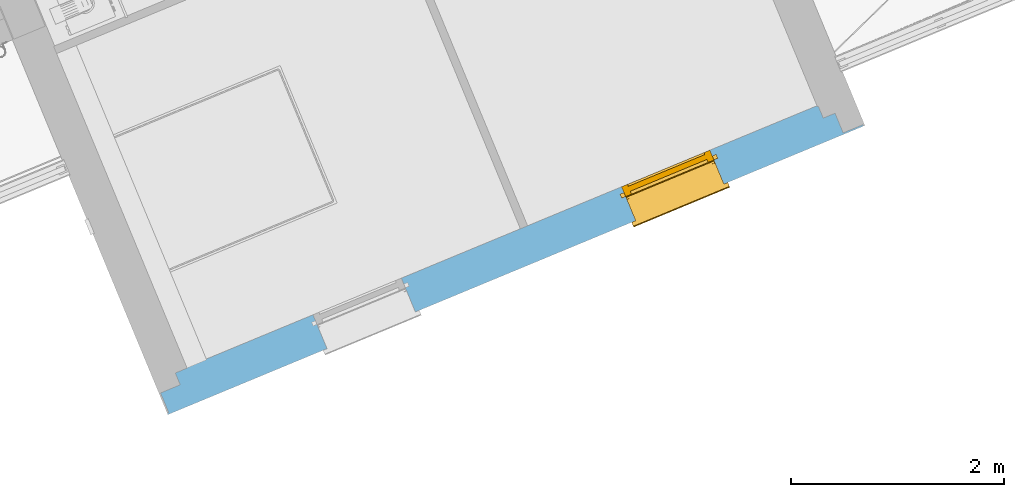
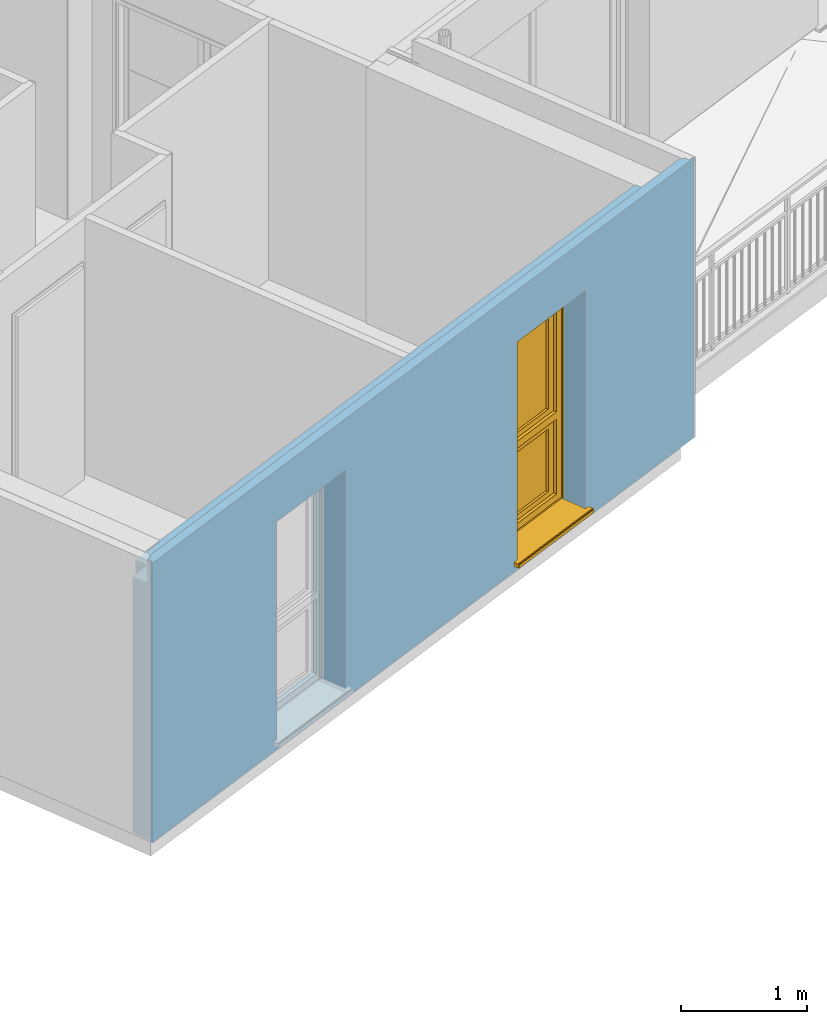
# One storey, part 16 of 90: 1 window, 2 openings, plus 1 element that does not belong to this part.
"""IFC2X3 building model written with IfcOpenShell, lengths in metres."""

from ifc_helpers import new_model, entity, si_unit, converted_unit, derived_unit, money_unit, direction, frame, origin_with_axes, place, context, subcontext, project, spatial, open_shell, faceted_brep, surface_model, source, transform, mapped, material, material_list, type_object, element, fill, save


model = new_model("IFC2X3")

# Units and contexts
model_context = context("Model", 3, precision=1e-05, world=origin_with_axes(), true_north=direction((0.0, 1.0)))
body_context = subcontext(model_context, "Body", "Model", "MODEL_VIEW")
ifc_project = project(units=[si_unit("LENGTHUNIT", "METRE"), si_unit("AREAUNIT", "SQUARE_METRE"), si_unit("VOLUMEUNIT", "CUBIC_METRE"), converted_unit("PLANEANGLEUNIT", "DEGREE", entity("IfcPlaneAngleMeasure", 0.0174532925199), si_unit("PLANEANGLEUNIT", "RADIAN"), dimensions=[0, 0, 0, 0, 0, 0, 0]), si_unit("SOLIDANGLEUNIT", "STERADIAN"), money_unit("EUR"), converted_unit("TIMEUNIT", "Year", entity("IfcTimeMeasure", 31556926.0), si_unit("TIMEUNIT", "SECOND"), dimensions=[0, 0, 1, 0, 0, 0, 0]), si_unit("MASSUNIT", "GRAM", prefix="KILO"), si_unit("THERMODYNAMICTEMPERATUREUNIT", "DEGREE_CELSIUS"), si_unit("LUMINOUSINTENSITYUNIT", "LUMEN"), si_unit("ENERGYUNIT", "JOULE", prefix="MEGA"), derived_unit("THERMALCONDUCTANCEUNIT", [(si_unit("POWERUNIT", "WATT"), 1), (si_unit("LENGTHUNIT", "METRE"), -1), (si_unit("THERMODYNAMICTEMPERATUREUNIT", "KELVIN"), -1)]), derived_unit("SPECIFICHEATCAPACITYUNIT", [(si_unit("ENERGYUNIT", "JOULE"), 1), (si_unit("MASSUNIT", "GRAM", prefix="KILO"), -1), (si_unit("THERMODYNAMICTEMPERATUREUNIT", "KELVIN"), -1)]), derived_unit("MASSDENSITYUNIT", [(si_unit("MASSUNIT", "GRAM", prefix="KILO"), 1), (si_unit("VOLUMEUNIT", "CUBIC_METRE"), -1)])], contexts=[model_context])

# Site, building, storey
site_placement = place(None, origin_with_axes())
site = spatial("IfcSite", under=ifc_project, at=site_placement, Name="Site", CompositionType="ELEMENT")
building_placement = place(site_placement, origin_with_axes())
building = spatial("IfcBuilding", under=site, at=building_placement, Name="Bâtiment", CompositionType="ELEMENT")
storey_placement = place(building_placement, frame((0.0, 0.0, 2.72), z_axis=(0.0, 0.0, 1.0), x_axis=(1.0, 0.0, 0.0)))
storey = spatial("IfcBuildingStorey", under=building, at=storey_placement, Name="R+1", CompositionType="ELEMENT", Elevation=2.72)

# Wall, openings, window
ifc_material_1 = material(Name="Finition int - Plaque de plâtre")
ifc_material_2 = material(Name="Isolation - Polystyrène extrudé")
ifc_material_3 = material(Name="Bloc ELITHERM")
ifc_material_4 = material(Name="Isolation - Polystyrène expansé")
ifc_material_5 = material(Name="Mortier")
ifc_material_6 = material(Name="Béton cellulaire")
ifc_material_7 = material(Name="Finition ext - Crépis")
ifc_material_list = material_list([ifc_material_1, ifc_material_2, ifc_material_3, ifc_material_4, ifc_material_5, ifc_material_6, ifc_material_7])
wall_type = type_object("IfcWallType", Name="Mur ALKERN + planelle 23 345 x 2720", PredefinedType="USERDEFINED")
wall_placement = place(storey_placement, frame((-20.1547284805, -28.2349360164, 0.0), z_axis=(0.0, 0.0, 1.0), x_axis=(0.923701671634, 0.383112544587, 0.0)))
wall = element("IfcWall", 1, at=wall_placement, inside=storey, type_object=wall_type, material=ifc_material_list, Name="Mue bloc ALKERN isolé", ObjectType="SOLIDWALL", context=body_context, shape_type="Brep", body=[
    faceted_brep([(0.53500001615, 0.335000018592, 2.3), (0.33500001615, 0.335000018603, 2.3), (0.334999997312, 0.334999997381, 0.0), (6.75719491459, 0.334999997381, 0.0), (6.75719491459, 0.334999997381, 2.49000000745), (0.53500001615, 0.335000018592, 2.49000000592), (1.6219994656, 0.335000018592, 2.22), (1.6219994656, 0.334999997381, 2.4), (2.5219994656, 0.334999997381, 2.4), (2.5219994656, 0.335000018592, 2.22), (2.5219994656, 0.335000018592, 0.12), (1.6219994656, 0.335000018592, 0.12), (4.76579728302, 0.335000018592, 2.22), (4.76579728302, 0.334999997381, 2.4), (5.66579728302, 0.334999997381, 2.4), (5.66579728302, 0.335000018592, 2.22), (5.66579728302, 0.335000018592, 0.12), (4.76579728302, 0.335000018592, 0.12), (0.535000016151, 0.344999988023, 2.3), (0.335000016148, 0.344999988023, 2.3), (0.33499999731, 0.344999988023, 0.0), (6.75719491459, 0.344999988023, 0.0), (6.75719491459, 0.344999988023, 2.49000000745), (0.535000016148, 0.344999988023, 2.49000000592), (1.6219994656, 0.344999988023, 2.22), (1.6219994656, 0.344999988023, 2.4), (1.6219994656, 0.344999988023, 0.12), (2.5219994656, 0.344999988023, 2.4), (2.5219994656, 0.344999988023, 2.22), (2.5219994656, 0.344999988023, 0.12), (4.76579728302, 0.344999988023, 2.22), (4.76579728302, 0.344999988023, 2.4), (4.76579728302, 0.344999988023, 0.12), (5.66579728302, 0.344999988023, 2.4), (5.66579728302, 0.344999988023, 2.22), (5.66579728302, 0.344999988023, 0.12)], [[[0, 1, 2, 3, 4, 5], [6, 7, 8, 9, 10, 11], [12, 13, 14, 15, 16, 17]], [[1, 0, 18, 19]], [[1, 19, 20, 2]], [[3, 2, 20, 21]], [[21, 22, 4, 3]], [[23, 5, 4, 22]], [[0, 5, 23, 18]], [[24, 25, 7, 6, 11, 26]], [[25, 27, 8, 7]], [[9, 8, 27, 28, 29, 10]], [[26, 11, 10, 29]], [[30, 31, 13, 12, 17, 32]], [[14, 13, 31, 33]], [[15, 14, 33, 34, 35, 16]], [[16, 35, 32, 17]], [[18, 23, 22, 21, 20, 19], [25, 24, 26, 29, 28, 27], [31, 30, 32, 35, 34, 33]]]),
    faceted_brep([(5.66579728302, 0.286, 0.12), (5.66579728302, 0.286, 0.06), (5.66579728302, 0.214999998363, 0.06), (5.66579728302, 0.214999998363, 0.12), (5.66579728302, 0.215, 2.22), (5.66579728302, 0.215, 2.4), (5.66579728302, 0.334999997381, 2.4), (5.66579728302, 0.334999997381, 2.22), (5.66579728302, 0.334999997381, 0.12), (4.76579728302, 0.286, 0.12), (4.76579728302, 0.286, 0.06), (4.76579728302, 0.214999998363, 0.06), (6.76719490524, 0.214999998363, 2.49000000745), (0.214999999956, 0.214999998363, 2.49000000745), (0.214999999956, 0.214999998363, 0.0), (6.76719490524, 0.214999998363, 0.0), (2.5219994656, 0.215, 2.4), (2.5219994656, 0.215, 2.22), (2.5219994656, 0.214999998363, 0.12), (2.5219994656, 0.214999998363, 0.06), (1.6219994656, 0.214999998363, 0.06), (1.6219994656, 0.214999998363, 0.12), (1.6219994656, 0.215, 2.22), (1.6219994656, 0.215, 2.4), (4.76579728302, 0.214999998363, 0.12), (4.76579728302, 0.215, 2.22), (4.76579728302, 0.215, 2.4), (4.76579728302, 0.334999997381, 2.4), (6.76719490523, 0.334999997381, 0.0), (0.214999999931, 0.334999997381, 0.0), (0.214999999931, 0.334999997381, 2.49000000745), (6.76719490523, 0.334999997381, 2.49000000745), (2.5219994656, 0.334999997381, 0.12), (2.5219994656, 0.334999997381, 2.22), (2.5219994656, 0.334999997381, 2.4), (1.6219994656, 0.334999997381, 2.4), (1.6219994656, 0.334999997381, 2.22), (1.6219994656, 0.334999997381, 0.12), (4.76579728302, 0.334999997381, 2.22), (4.76579728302, 0.334999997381, 0.12), (2.5219994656, 0.286, 0.12), (2.5219994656, 0.286, 0.06), (1.6219994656, 0.286, 0.06), (1.6219994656, 0.286, 0.12)], [[[0, 1, 2, 3, 4, 5, 6, 7, 8]], [[0, 9, 10, 1]], [[11, 2, 1, 10]], [[12, 13, 14, 15], [16, 17, 18, 19, 20, 21, 22, 23], [11, 24, 25, 26, 5, 4, 3, 2]], [[26, 27, 6, 5]], [[28, 29, 30, 31], [32, 33, 34, 35, 36, 37], [8, 7, 6, 27, 38, 39]], [[9, 0, 8, 39]], [[24, 11, 10, 9, 39, 38, 27, 26, 25]], [[31, 30, 13, 12]], [[29, 14, 13, 30]], [[15, 14, 29, 28]], [[28, 31, 12, 15]], [[34, 33, 32, 40, 41, 19, 18, 17, 16]], [[20, 19, 41, 42]], [[35, 23, 22, 21, 20, 42, 43, 37, 36]], [[23, 35, 34, 16]], [[43, 40, 32, 37]], [[40, 43, 42, 41]]]),
    faceted_brep([(5.66579728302, 0.215, 0.12), (5.66579728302, 0.215, 0.06), (5.66579728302, 0.015, 0.06), (5.66579728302, 0.015, 0.12), (5.66579728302, 0.015, 2.22), (5.66579728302, 0.215, 2.22), (0.0149999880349, 0.215, 0.0), (0.0149999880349, 0.215, 2.49), (6.88719490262, 0.215, 2.49000000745), (6.88719490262, 0.215, 0.0), (2.5219994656, 0.215, 0.06), (2.5219994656, 0.215, 0.12), (2.5219994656, 0.215, 2.22), (1.6219994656, 0.215, 2.22), (1.6219994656, 0.215, 0.12), (1.6219994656, 0.215, 0.06), (4.76579728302, 0.215, 2.22), (4.76579728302, 0.215, 0.12), (4.76579728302, 0.215, 0.06), (4.76579728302, 0.015, 0.06), (0.014999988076, 0.015, 2.49), (0.014999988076, 0.015, 0.0), (6.88719490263, 0.015, 0.0), (6.88719490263, 0.015, 2.49000000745), (1.6219994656, 0.015, 0.06), (1.6219994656, 0.015, 0.12), (1.6219994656, 0.015, 2.22), (2.5219994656, 0.015, 2.22), (2.5219994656, 0.015, 0.12), (2.5219994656, 0.015, 0.06), (4.76579728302, 0.015, 0.12), (4.76579728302, 0.015, 2.22), (0.014999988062, 0.0829999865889, 2.49), (6.88719490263, 0.0829999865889, 2.49000000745)], [[[0, 1, 2, 3, 4, 5]], [[6, 7, 8, 9], [10, 11, 12, 13, 14, 15], [1, 0, 5, 16, 17, 18]], [[19, 2, 1, 18]], [[20, 21, 22, 23], [24, 25, 26, 27, 28, 29], [19, 30, 31, 4, 3, 2]], [[31, 16, 5, 4]], [[7, 6, 21, 20, 32]], [[7, 32, 33, 8]], [[9, 8, 33, 23, 22]], [[21, 6, 9, 22]], [[11, 10, 29, 28, 27, 12]], [[12, 27, 26, 13]], [[25, 24, 15, 14, 13, 26]], [[10, 15, 24, 29]], [[30, 19, 18, 17, 16, 31]], [[32, 20, 23, 33]]]),
    faceted_brep([(7.01919490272, 0.0829999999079, 2.72), (0.063000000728, 0.0829999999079, 2.72), (0.0630000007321, 0.062999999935, 2.72), (7.01919490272, 0.062999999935, 2.72), (7.01919490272, 0.0829999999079, 2.5000000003), (0.063000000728, 0.0829999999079, 2.5000000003), (0.0630000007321, 0.062999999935, 2.5000000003), (7.01919490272, 0.062999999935, 2.5000000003)], [[[0, 1, 2, 3]], [[4, 5, 1, 0]], [[5, 6, 2, 1]], [[3, 2, 6, 7]], [[4, 0, 3, 7]], [[7, 6, 5, 4]]]),
    faceted_brep([(0.014999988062, 0.083, 2.5), (0.014999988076, 0.015, 2.5), (7.01919490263, 0.015, 2.5), (7.01919490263, 0.083, 2.5), (0.014999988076, 0.015, 2.49), (0.014999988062, 0.083, 2.49), (7.01919490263, 0.015, 2.49), (7.01919490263, 0.083, 2.49)], [[[0, 1, 2, 3]], [[4, 1, 0, 5]], [[1, 4, 6, 2]], [[3, 2, 6, 7]], [[5, 0, 3, 7]], [[4, 5, 7, 6]]]),
    faceted_brep([(0.0149999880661, 0.0630000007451, 2.72), (0.014999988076, 0.015, 2.72), (7.03919490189, 0.015, 2.72), (7.03919490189, 0.0630000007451, 2.72), (0.014999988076, 0.015, 2.5), (0.0149999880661, 0.0630000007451, 2.5), (7.03919490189, 0.015, 2.5000000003), (7.03919490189, 0.0630000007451, 2.5000000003)], [[[0, 1, 2, 3]], [[4, 1, 0, 5]], [[1, 4, 6, 2]], [[3, 2, 6, 7]], [[5, 0, 3, 7]], [[4, 5, 7, 6]]]),
    faceted_brep([(5.66579728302, 0.0149999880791, 0.12), (5.66579728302, 0.0, 0.12), (5.66579728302, 0.0, 2.22), (5.66579728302, 0.0149999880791, 2.22), (5.66579728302, 0.0, 0.06), (5.66579728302, 0.0149999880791, 0.06), (7.08719491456, 0.0, 2.72), (1.19209424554e-08, 0.0, 2.72), (1.19209424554e-08, 0.0, 0.0), (7.08719491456, 0.0, 0.0), (1.6219994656, 0.0, 0.06), (1.6219994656, 0.0, 0.12), (1.6219994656, 0.0, 2.22), (2.5219994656, 0.0, 2.22), (2.5219994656, 0.0, 0.12), (2.5219994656, 0.0, 0.06), (4.76579728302, 0.0, 0.06), (4.76579728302, 0.0, 0.12), (4.76579728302, 0.0, 2.22), (4.76579728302, 0.0149999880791, 2.22), (1.19178622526e-08, 0.0149999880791, 2.72), (7.08719491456, 0.0149999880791, 2.72), (7.08719491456, 0.0149999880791, 0.0), (1.19178622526e-08, 0.0149999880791, 0.0), (2.5219994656, 0.0149999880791, 0.06), (2.5219994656, 0.0149999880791, 0.12), (2.5219994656, 0.0149999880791, 2.22), (1.6219994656, 0.0149999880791, 2.22), (1.6219994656, 0.0149999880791, 0.12), (1.6219994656, 0.0149999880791, 0.06), (4.76579728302, 0.0149999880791, 0.12), (4.76579728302, 0.0149999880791, 0.06)], [[[0, 1, 2, 3]], [[4, 1, 0, 5]], [[6, 7, 8, 9], [10, 11, 12, 13, 14, 15], [16, 17, 18, 2, 1, 4]], [[18, 19, 3, 2]], [[20, 21, 22, 23], [24, 25, 26, 27, 28, 29], [5, 0, 3, 19, 30, 31]], [[16, 4, 5, 31]], [[7, 6, 21, 20]], [[20, 23, 8, 7]], [[23, 22, 9, 8]], [[22, 21, 6, 9]], [[10, 29, 28, 11]], [[27, 12, 11, 28]], [[26, 13, 12, 27]], [[13, 26, 25, 14]], [[25, 24, 15, 14]], [[24, 29, 10, 15]], [[30, 17, 16, 31]], [[17, 30, 19, 18]]]),
])
opening_1_placement = place(wall_placement, frame((2.0719994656, 0.0, 0.12), z_axis=(0.0, 0.0, 1.0), x_axis=(1.0, 0.0, 0.0)))
element("IfcOpeningElement", 2, at=opening_1_placement, cuts=wall, Name="MEN 57", context=body_context, shape_type="Brep", body=[
    faceted_brep([(-0.45, 0.834999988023, 0.0), (0.45, 0.834999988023, 0.0), (0.45, 0.245, 0.0), (-0.45, 0.245, 0.0), (-0.45, 0.834999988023, 2.1), (0.45, 0.834999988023, 2.1), (0.45, 0.245, 2.1), (-0.45, 0.245, 2.1)], [[[0, 1, 2, 3]], [[0, 4, 5, 1]], [[1, 5, 6, 2]], [[3, 2, 6, 7]], [[4, 0, 3, 7]], [[5, 4, 7, 6]]]),
    faceted_brep([(-0.45, -0.344999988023, 0.0), (-0.45, -0.344999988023, 2.1), (-0.45, 0.245, 2.1), (-0.45, 0.245, 0.0), (0.45, -0.344999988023, 0.0), (0.45, -0.344999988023, 2.1), (0.45, 0.245, 2.1), (0.45, 0.245, 0.0)], [[[0, 1, 2, 3]], [[0, 4, 5, 1]], [[1, 5, 6, 2]], [[3, 2, 6, 7]], [[4, 0, 3, 7]], [[5, 4, 7, 6]]]),
    faceted_brep([(-0.45, -0.344999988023, 0.0), (-0.45, -0.344999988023, 2.1), (-0.45, 0.245, 2.1), (-0.45, 0.245, 0.0), (0.45, -0.344999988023, 0.0), (0.45, -0.344999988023, 2.1), (0.45, 0.245, 2.1), (0.45, 0.245, 0.0)], [[[0, 1, 2, 3]], [[0, 4, 5, 1]], [[1, 5, 6, 2]], [[3, 2, 6, 7]], [[4, 0, 3, 7]], [[5, 4, 7, 6]]]),
    faceted_brep([(-0.45, 0.804999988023, 2.1), (0.45, 0.804999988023, 2.1), (0.45, 0.215, 2.1), (-0.45, 0.215, 2.1), (-0.45, 0.804999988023, 2.28), (0.45, 0.804999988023, 2.28), (0.45, 0.215, 2.28), (-0.45, 0.215, 2.28)], [[[0, 1, 2, 3]], [[0, 4, 5, 1]], [[1, 5, 6, 2]], [[3, 2, 6, 7]], [[4, 0, 3, 7]], [[5, 4, 7, 6]]]),
    faceted_brep([(-0.45, -0.303999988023, 0.0), (0.45, -0.303999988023, 0.0), (0.45, 0.286, 0.0), (-0.45, 0.286, 0.0), (-0.45, -0.303999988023, -0.06), (0.45, -0.303999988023, -0.06), (0.45, 0.286, -0.06), (-0.45, 0.286, -0.06)], [[[0, 1, 2, 3]], [[0, 4, 5, 1]], [[1, 5, 6, 2]], [[3, 2, 6, 7]], [[4, 0, 3, 7]], [[5, 4, 7, 6]]]),
])
opening_2_placement = place(wall_placement, frame((5.21579728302, 0.0, 0.12), z_axis=(0.0, 0.0, 1.0), x_axis=(1.0, 0.0, 0.0)))
opening_2 = element("IfcOpeningElement", 3, at=opening_2_placement, cuts=wall, Name="MEN 58", context=body_context, shape_type="Brep", body=[
    faceted_brep([(0.45, 0.245, 0.0), (-0.45, 0.245, 0.0), (-0.45, 0.834999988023, 0.0), (0.45, 0.834999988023, 0.0), (0.45, 0.245, 2.1), (-0.45, 0.245, 2.1), (-0.45, 0.834999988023, 2.1), (0.45, 0.834999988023, 2.1)], [[[0, 1, 2, 3]], [[0, 4, 5, 1]], [[1, 5, 6, 2]], [[3, 2, 6, 7]], [[4, 0, 3, 7]], [[5, 4, 7, 6]]]),
    faceted_brep([(0.45, 0.245, 0.0), (0.45, 0.245, 2.1), (0.45, -0.344999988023, 2.1), (0.45, -0.344999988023, 0.0), (-0.45, 0.245, 0.0), (-0.45, 0.245, 2.1), (-0.45, -0.344999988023, 2.1), (-0.45, -0.344999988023, 0.0)], [[[0, 1, 2, 3]], [[0, 4, 5, 1]], [[1, 5, 6, 2]], [[3, 2, 6, 7]], [[4, 0, 3, 7]], [[5, 4, 7, 6]]]),
    faceted_brep([(0.45, 0.245, 0.0), (0.45, 0.245, 2.1), (0.45, -0.344999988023, 2.1), (0.45, -0.344999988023, 0.0), (-0.45, 0.245, 0.0), (-0.45, 0.245, 2.1), (-0.45, -0.344999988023, 2.1), (-0.45, -0.344999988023, 0.0)], [[[0, 1, 2, 3]], [[0, 4, 5, 1]], [[1, 5, 6, 2]], [[3, 2, 6, 7]], [[4, 0, 3, 7]], [[5, 4, 7, 6]]]),
    faceted_brep([(0.45, 0.215, 2.1), (-0.45, 0.215, 2.1), (-0.45, 0.804999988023, 2.1), (0.45, 0.804999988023, 2.1), (0.45, 0.215, 2.28), (-0.45, 0.215, 2.28), (-0.45, 0.804999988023, 2.28), (0.45, 0.804999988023, 2.28)], [[[0, 1, 2, 3]], [[0, 4, 5, 1]], [[1, 5, 6, 2]], [[3, 2, 6, 7]], [[4, 0, 3, 7]], [[5, 4, 7, 6]]]),
    faceted_brep([(0.45, 0.286, 0.0), (-0.45, 0.286, 0.0), (-0.45, -0.303999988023, 0.0), (0.45, -0.303999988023, 0.0), (0.45, 0.286, -0.06), (-0.45, 0.286, -0.06), (-0.45, -0.303999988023, -0.06), (0.45, -0.303999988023, -0.06)], [[[0, 1, 2, 3]], [[0, 4, 5, 1]], [[1, 5, 6, 2]], [[3, 2, 6, 7]], [[4, 0, 3, 7]], [[5, 4, 7, 6]]]),
])
window_style = type_object("IfcWindowStyle", Name="Baie générique 2017 v2", ConstructionType="NOTDEFINED", OperationType="NOTDEFINED", ParameterTakesPrecedence=False, Sizeable=False)
shared_shape = source(origin_with_axes(), body_context, "Body", "SurfaceModel", [
    faceted_brep([(0.45, 0.0, 2.1), (-0.45, 0.0, 2.1), (-0.45, 0.0, 0.0), (0.45, 0.0, 0.0), (-0.39, 0.0, 0.85), (-0.39, 0.0, 2.05), (0.39, 0.0, 2.05), (0.39, 0.0, 0.85), (-0.39, 0.0, 0.78), (0.39, 0.0, 0.78), (0.39, 0.0, 0.05), (-0.39, 0.0, 0.05), (0.45, 0.1, 2.1), (-0.45, 0.1, 2.1), (-0.45, 0.1, 0.0), (0.45, 0.1, 0.0), (-0.39, 0.1, 0.85), (-0.39, 0.1, 2.05), (0.39, 0.1, 2.05), (0.39, 0.1, 0.85), (-0.39, 0.1, 0.78), (0.39, 0.1, 0.78), (0.39, 0.1, 0.05), (-0.39, 0.1, 0.05)], [[[0, 1, 2, 3], [4, 5, 6, 7], [8, 9, 10, 11]], [[1, 0, 12, 13]], [[2, 1, 13, 14]], [[3, 2, 14, 15]], [[0, 3, 15, 12]], [[16, 17, 5, 4]], [[6, 5, 17, 18]], [[7, 6, 18, 19]], [[4, 7, 19, 16]], [[20, 21, 9, 8]], [[21, 22, 10, 9]], [[11, 10, 22, 23]], [[8, 11, 23, 20]], [[14, 13, 12, 15], [16, 19, 18, 17], [20, 23, 22, 21]]]),
    faceted_brep([(-0.39, 0.08, 2.05), (0.39, 0.08, 2.05), (0.39, 0.08, 0.85), (-0.39, 0.08, 0.85), (-0.32, 0.08, 1.98), (-0.32, 0.08, 0.9), (0.32, 0.08, 0.9), (0.32, 0.08, 1.98), (-0.39, 0.03, 2.05), (0.39, 0.03, 2.05), (0.39, 0.03, 0.85), (-0.39, 0.03, 0.85), (-0.32, 0.03, 1.98), (-0.32, 0.03, 0.9), (0.32, 0.03, 0.9), (0.32, 0.03, 1.98)], [[[0, 1, 2, 3], [4, 5, 6, 7]], [[0, 8, 9, 1]], [[9, 10, 2, 1]], [[10, 11, 3, 2]], [[3, 11, 8, 0]], [[4, 12, 13, 5]], [[13, 14, 6, 5]], [[14, 15, 7, 6]], [[7, 15, 12, 4]], [[9, 8, 11, 10], [13, 12, 15, 14]]]),
    surface_model("IfcShellBasedSurfaceModel", [(0.39, 0.08, 0.85), (0.39, 0.08, 2.05), (0.39, 0.055, 2.05), (0.39, 0.055, 0.85)], [open_shell([[[0, 1, 2, 3]]])]),
    surface_model("IfcShellBasedSurfaceModel", [(-0.39, 0.08, 0.85), (-0.39, 0.08, 2.05), (-0.39, 0.055, 2.05), (-0.39, 0.055, 0.85)], [open_shell([[[0, 1, 2, 3]]])]),
    surface_model("IfcShellBasedSurfaceModel", [(0.39, 0.08, 0.85), (-0.39, 0.08, 0.85), (-0.39, 0.055, 0.85), (0.39, 0.055, 0.85)], [open_shell([[[0, 1, 2, 3]]])]),
    surface_model("IfcShellBasedSurfaceModel", [(0.39, 0.08, 2.05), (-0.39, 0.08, 2.05), (-0.39, 0.055, 2.05), (0.39, 0.055, 2.05)], [open_shell([[[0, 1, 2, 3]]])]),
    surface_model("IfcShellBasedSurfaceModel", [(0.39, 0.055, 0.85), (0.39, 0.055, 2.05), (0.39, 0.03, 2.05), (0.39, 0.03, 0.85)], [open_shell([[[0, 1, 2, 3]]])]),
    surface_model("IfcShellBasedSurfaceModel", [(-0.39, 0.055, 0.85), (-0.39, 0.055, 2.05), (-0.39, 0.03, 2.05), (-0.39, 0.03, 0.85)], [open_shell([[[0, 1, 2, 3]]])]),
    surface_model("IfcShellBasedSurfaceModel", [(0.39, 0.055, 0.85), (-0.39, 0.055, 0.85), (-0.39, 0.03, 0.85), (0.39, 0.03, 0.85)], [open_shell([[[0, 1, 2, 3]]])]),
    surface_model("IfcShellBasedSurfaceModel", [(0.39, 0.055, 2.05), (-0.39, 0.055, 2.05), (-0.39, 0.03, 2.05), (0.39, 0.03, 2.05)], [open_shell([[[0, 1, 2, 3]]])]),
    faceted_brep([(0.32, 0.0575, 0.9), (0.32, 0.0525, 0.9), (-0.32, 0.0525, 0.9), (-0.32, 0.0575, 0.9), (0.32, 0.0575, 1.98), (0.32, 0.0525, 1.98), (-0.32, 0.0525, 1.98), (-0.32, 0.0575, 1.98)], [[[0, 1, 2, 3]], [[4, 5, 1, 0]], [[1, 5, 6, 2]], [[3, 2, 6, 7]], [[0, 3, 7, 4]], [[7, 6, 5, 4]]]),
    faceted_brep([(-0.39, 0.08, 0.78), (0.39, 0.08, 0.78), (0.39, 0.08, 0.05), (-0.39, 0.08, 0.05), (-0.32, 0.08, 0.71), (-0.32, 0.08, 0.1), (0.32, 0.08, 0.1), (0.32, 0.08, 0.71), (-0.39, 0.03, 0.78), (0.39, 0.03, 0.78), (0.39, 0.03, 0.05), (-0.39, 0.03, 0.05), (-0.32, 0.03, 0.71), (-0.32, 0.03, 0.1), (0.32, 0.03, 0.1), (0.32, 0.03, 0.71)], [[[0, 1, 2, 3], [4, 5, 6, 7]], [[0, 8, 9, 1]], [[9, 10, 2, 1]], [[10, 11, 3, 2]], [[3, 11, 8, 0]], [[4, 12, 13, 5]], [[13, 14, 6, 5]], [[14, 15, 7, 6]], [[7, 15, 12, 4]], [[9, 8, 11, 10], [13, 12, 15, 14]]]),
    surface_model("IfcShellBasedSurfaceModel", [(0.39, 0.08, 0.05), (0.39, 0.08, 0.78), (0.39, 0.055, 0.78), (0.39, 0.055, 0.05)], [open_shell([[[0, 1, 2, 3]]])]),
    surface_model("IfcShellBasedSurfaceModel", [(-0.39, 0.08, 0.05), (-0.39, 0.08, 0.78), (-0.39, 0.055, 0.78), (-0.39, 0.055, 0.05)], [open_shell([[[0, 1, 2, 3]]])]),
    surface_model("IfcShellBasedSurfaceModel", [(0.39, 0.08, 0.05), (-0.39, 0.08, 0.05), (-0.39, 0.055, 0.05), (0.39, 0.055, 0.05)], [open_shell([[[0, 1, 2, 3]]])]),
    surface_model("IfcShellBasedSurfaceModel", [(0.39, 0.08, 0.78), (-0.39, 0.08, 0.78), (-0.39, 0.055, 0.78), (0.39, 0.055, 0.78)], [open_shell([[[0, 1, 2, 3]]])]),
    surface_model("IfcShellBasedSurfaceModel", [(0.39, 0.055, 0.05), (0.39, 0.055, 0.78), (0.39, 0.03, 0.78), (0.39, 0.03, 0.05)], [open_shell([[[0, 1, 2, 3]]])]),
    surface_model("IfcShellBasedSurfaceModel", [(-0.39, 0.055, 0.05), (-0.39, 0.055, 0.78), (-0.39, 0.03, 0.78), (-0.39, 0.03, 0.05)], [open_shell([[[0, 1, 2, 3]]])]),
    surface_model("IfcShellBasedSurfaceModel", [(0.39, 0.055, 0.05), (-0.39, 0.055, 0.05), (-0.39, 0.03, 0.05), (0.39, 0.03, 0.05)], [open_shell([[[0, 1, 2, 3]]])]),
    surface_model("IfcShellBasedSurfaceModel", [(0.39, 0.055, 0.78), (-0.39, 0.055, 0.78), (-0.39, 0.03, 0.78), (0.39, 0.03, 0.78)], [open_shell([[[0, 1, 2, 3]]])]),
    faceted_brep([(0.32, 0.0575, 0.1), (0.32, 0.0525, 0.1), (-0.32, 0.0525, 0.1), (-0.32, 0.0575, 0.1), (0.32, 0.0575, 0.71), (0.32, 0.0525, 0.71), (-0.32, 0.0525, 0.71), (-0.32, 0.0575, 0.71)], [[[0, 1, 2, 3]], [[4, 5, 1, 0]], [[1, 5, 6, 2]], [[3, 2, 6, 7]], [[0, 3, 7, 4]], [[7, 6, 5, 4]]]),
    faceted_brep([(0.45, -0.03, 0.0), (0.45, -0.03, 2.1), (0.425, -0.03, 2.1), (0.425, -0.03, 0.0), (0.45, -0.002, 0.0), (0.45, -0.002, 2.1), (0.425, -0.002, 2.1), (0.425, -0.004, 2.1), (0.448, -0.004, 2.1), (0.448, -0.028, 2.1), (0.425, -0.028, 2.1), (0.425, -0.028, 0.0), (0.448, -0.028, 0.0), (0.448, -0.004, 0.0), (0.425, -0.004, 0.0), (0.425, -0.002, 0.0)], [[[0, 1, 2, 3]], [[4, 5, 1, 0]], [[1, 5, 6, 7, 8, 9, 10, 2]], [[3, 2, 10, 11]], [[0, 3, 11, 12, 13, 14, 15, 4]], [[15, 6, 5, 4]], [[14, 7, 6, 15]], [[13, 8, 7, 14]], [[12, 9, 8, 13]], [[11, 10, 9, 12]]]),
    faceted_brep([(-0.45, -0.03, 0.0), (-0.425, -0.03, 0.0), (-0.425, -0.03, 2.1), (-0.45, -0.03, 2.1), (-0.45, -0.002, 0.0), (-0.425, -0.002, 0.0), (-0.425, -0.004, 0.0), (-0.448, -0.004, 0.0), (-0.448, -0.028, 0.0), (-0.425, -0.028, 0.0), (-0.425, -0.028, 2.1), (-0.448, -0.028, 2.1), (-0.448, -0.004, 2.1), (-0.425, -0.004, 2.1), (-0.425, -0.002, 2.1), (-0.45, -0.002, 2.1)], [[[0, 1, 2, 3]], [[0, 4, 5, 6, 7, 8, 9, 1]], [[1, 9, 10, 2]], [[3, 2, 10, 11, 12, 13, 14, 15]], [[4, 0, 3, 15]], [[5, 4, 15, 14]], [[6, 5, 14, 13]], [[7, 6, 13, 12]], [[8, 7, 12, 11]], [[9, 8, 11, 10]]]),
    faceted_brep([(-0.448, -0.028, 2.1), (-0.448, -0.028, 2.278), (0.448, -0.028, 2.278), (0.448, -0.028, 2.1), (-0.448, -0.03, 2.1), (-0.448, -0.03, 2.28), (-0.448, 0.17, 2.28), (-0.448, 0.17, 2.1), (-0.448, 0.168, 2.1), (-0.448, 0.168, 2.278), (0.448, 0.168, 2.278), (0.448, 0.168, 2.1), (0.448, 0.17, 2.1), (0.448, 0.17, 2.28), (0.448, -0.03, 2.28), (0.448, -0.03, 2.1)], [[[0, 1, 2, 3]], [[0, 4, 5, 6, 7, 8, 9, 1]], [[1, 9, 10, 2]], [[3, 2, 10, 11, 12, 13, 14, 15]], [[4, 0, 3, 15]], [[5, 4, 15, 14]], [[6, 5, 14, 13]], [[7, 6, 13, 12]], [[8, 7, 12, 11]], [[9, 8, 11, 10]]]),
    faceted_brep([(-0.448, 0.0724697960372, 2.17436337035), (-0.448, 0.0555495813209, 2.17050144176), (-0.448, 0.041980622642, 2.18132232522), (-0.448, 0.041980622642, 2.19867767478), (-0.448, 0.0555495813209, 2.20949855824), (-0.448, 0.0724697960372, 2.20563662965), (-0.448, 0.08, 2.19), (0.448, 0.0724697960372, 2.17436337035), (0.448, 0.0555495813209, 2.17050144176), (0.448, 0.041980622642, 2.18132232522), (0.448, 0.041980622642, 2.19867767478), (0.448, 0.0555495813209, 2.20949855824), (0.448, 0.0724697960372, 2.20563662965), (0.448, 0.08, 2.19)], [[[0, 1, 2, 3, 4, 5, 6]], [[1, 0, 7, 8]], [[2, 1, 8, 9]], [[3, 2, 9, 10]], [[4, 3, 10, 11]], [[5, 4, 11, 12]], [[6, 5, 12, 13]], [[0, 6, 13, 7]], [[7, 13, 12, 11, 10, 9, 8]]]),
    faceted_brep([(-0.438, 0.130275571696, 2.15615706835), (-0.438, 0.108632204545, 2.12901714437), (-0.438, 0.0773566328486, 2.11395562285), (-0.438, 0.0426433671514, 2.11395562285), (-0.438, 0.011367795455, 2.12901714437), (-0.438, -0.0102755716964, 2.15615706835), (-0.438, -0.018, 2.19), (-0.438, -0.0102755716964, 2.22384293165), (-0.438, 0.011367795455, 2.25098285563), (-0.438, 0.0426433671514, 2.26604437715), (-0.438, 0.0773566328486, 2.26604437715), (-0.438, 0.108632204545, 2.25098285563), (-0.438, 0.130275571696, 2.22384293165), (-0.438, 0.138, 2.19), (0.438, 0.130275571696, 2.15615706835), (0.438, 0.108632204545, 2.12901714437), (0.438, 0.0773566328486, 2.11395562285), (0.438, 0.0426433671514, 2.11395562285), (0.438, 0.011367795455, 2.12901714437), (0.438, -0.0102755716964, 2.15615706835), (0.438, -0.018, 2.19), (0.438, -0.0102755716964, 2.22384293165), (0.438, 0.011367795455, 2.25098285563), (0.438, 0.0426433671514, 2.26604437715), (0.438, 0.0773566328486, 2.26604437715), (0.438, 0.108632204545, 2.25098285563), (0.438, 0.130275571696, 2.22384293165), (0.438, 0.138, 2.19)], [[[0, 1, 2, 3, 4, 5, 6, 7, 8, 9, 10, 11, 12, 13]], [[1, 0, 14, 15]], [[2, 1, 15, 16]], [[3, 2, 16, 17]], [[4, 3, 17, 18]], [[5, 4, 18, 19]], [[6, 5, 19, 20]], [[7, 6, 20, 21]], [[8, 7, 21, 22]], [[9, 8, 22, 23]], [[10, 9, 23, 24]], [[11, 10, 24, 25]], [[12, 11, 25, 26]], [[13, 12, 26, 27]], [[0, 13, 27, 14]], [[14, 27, 26, 25, 24, 23, 22, 21, 20, 19, 18, 17, 16, 15]]]),
    faceted_brep([(-0.45, 0.17, 2.1), (-0.45, 0.17, 2.28), (-0.448, 0.17, 2.28), (-0.448, 0.17, 2.1), (-0.45, -0.03, 2.1), (-0.45, -0.03, 2.28), (-0.448, -0.03, 2.28), (-0.448, -0.03, 2.1)], [[[0, 1, 2, 3]], [[0, 4, 5, 1]], [[1, 5, 6, 2]], [[3, 2, 6, 7]], [[4, 0, 3, 7]], [[5, 4, 7, 6]]]),
    faceted_brep([(0.448, 0.17, 2.1), (0.448, 0.17, 2.28), (0.45, 0.17, 2.28), (0.45, 0.17, 2.1), (0.448, -0.03, 2.1), (0.448, -0.03, 2.28), (0.45, -0.03, 2.28), (0.45, -0.03, 2.1)], [[[0, 1, 2, 3]], [[0, 4, 5, 1]], [[1, 5, 6, 2]], [[3, 2, 6, 7]], [[4, 0, 3, 7]], [[5, 4, 7, 6]]]),
    faceted_brep([(-0.448, -0.004, 2.1), (-0.448, 0.168, 2.1), (0.448, 0.168, 2.1), (0.448, -0.004, 2.1), (-0.448, -0.004, 2.102), (-0.448, 0.168, 2.102), (0.448, 0.168, 2.102), (0.448, -0.004, 2.102)], [[[0, 1, 2, 3]], [[0, 4, 5, 1]], [[1, 5, 6, 2]], [[3, 2, 6, 7]], [[4, 0, 3, 7]], [[5, 4, 7, 6]]]),
    faceted_brep([(-0.438, -0.006, 2.1), (-0.438, -0.006, 2.19), (0.438, -0.006, 2.19), (0.438, -0.006, 2.1), (-0.438, -0.026, 2.1), (-0.438, -0.026, 2.19), (0.438, -0.026, 2.19), (0.438, -0.026, 2.1)], [[[0, 1, 2, 3]], [[1, 0, 4, 5]], [[2, 1, 5, 6]], [[3, 2, 6, 7]], [[4, 0, 3, 7]], [[5, 4, 7, 6]]]),
    faceted_brep([(-0.45, -0.00167949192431, -0.01), (0.45, -0.00167949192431, -0.01), (0.45, 0.0, -0.00373205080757), (0.49, 0.0, -0.00373205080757), (0.49, 0.001, 0.0), (-0.49, 0.001, 0.0), (-0.49, 0.0, -0.00373205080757), (-0.45, 0.0, -0.00373205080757), (-0.45, -0.009, -0.0173205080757), (0.45, -0.009, -0.0173205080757), (0.45, -0.245, -0.02), (0.45, -0.245, -0.06), (0.45, 0.0, -0.06), (0.45, -0.019, -0.02), (0.49, 0.0, -0.06), (0.49, 0.041, -0.06), (0.49, 0.041, 0.0), (-0.49, 0.041, 0.0), (-0.49, 0.041, -0.06), (-0.49, 0.0, -0.06), (-0.45, 0.0, -0.06), (-0.45, -0.245, -0.06), (-0.45, -0.245, -0.02), (-0.45, -0.019, -0.02), (0.49, -0.245, -0.02), (0.49, -0.245, -0.06), (0.49, -0.275, -0.06), (-0.49, -0.275, -0.06), (-0.49, -0.245, -0.06), (-0.49, -0.245, -0.02), (-0.49, -0.285, -0.02), (0.49, -0.285, -0.02), (0.49, -0.295, -0.03), (0.49, -0.295, -0.06), (0.49, -0.285, -0.06), (0.49, -0.285, -0.05), (0.49, -0.275, -0.05), (0.49, -0.292071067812, -0.0229289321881), (-0.49, -0.275, -0.05), (-0.49, -0.285, -0.05), (-0.49, -0.285, -0.06), (-0.49, -0.295, -0.06), (-0.49, -0.295, -0.03), (-0.49, -0.292071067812, -0.0229289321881)], [[[0, 1, 2, 3, 4, 5, 6, 7]], [[8, 9, 1, 0]], [[10, 11, 12, 2, 1, 9, 13]], [[3, 2, 12, 14]], [[4, 3, 14, 15, 16]], [[16, 17, 5, 4]], [[6, 5, 17, 18, 19]], [[19, 20, 7, 6]], [[7, 20, 21, 22, 23, 8, 0]], [[23, 13, 9, 8]], [[10, 24, 25, 11]], [[21, 20, 19, 18, 15, 14, 12, 11, 25, 26, 27, 28]], [[22, 29, 30, 31, 24, 10, 13, 23]], [[15, 18, 17, 16]], [[22, 21, 28, 29]], [[32, 33, 34, 35, 36, 26, 25, 24, 31, 37]], [[36, 38, 27, 26]], [[28, 27, 38, 39, 40, 41, 42, 43, 30, 29]], [[31, 30, 43, 37]], [[32, 42, 41, 33]], [[33, 41, 40, 34]], [[34, 40, 39, 35]], [[35, 39, 38, 36]], [[37, 43, 42, 32]]]),
])
window_placement = place(opening_2_placement, frame((-0.45, 0.0, 0.0), z_axis=(0.0, 0.0, 1.0), x_axis=(1.0, 0.0, 0.0)))
window = element("IfcWindow", 4, at=window_placement, inside=storey, type_object=window_style, Name="MEN 58", ObjectType="WINDOW", OverallHeight=2.1, OverallWidth=0.9, context=body_context, shape_type="MappedRepresentation", body=[
    mapped(shared_shape, transform((0.45, 0.245, 0.0))),
])
fill(opening_2, window)

save(model, "model.ifc")
